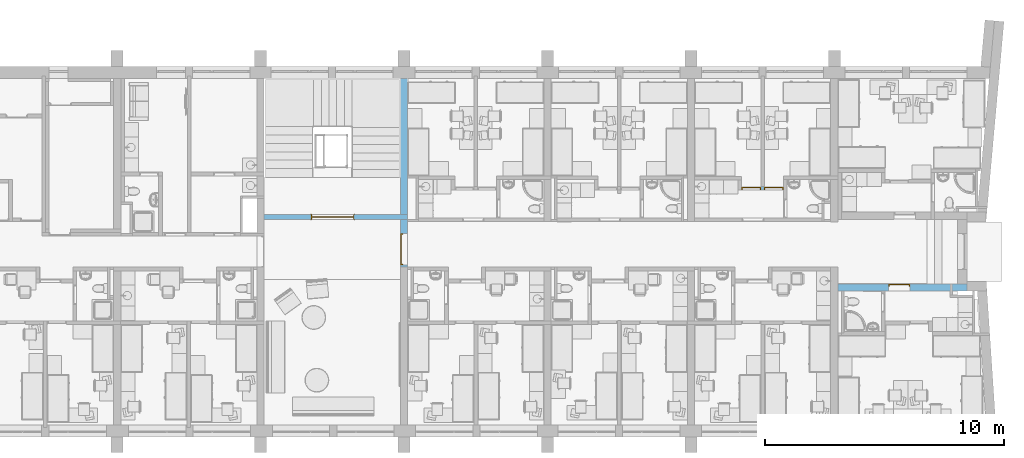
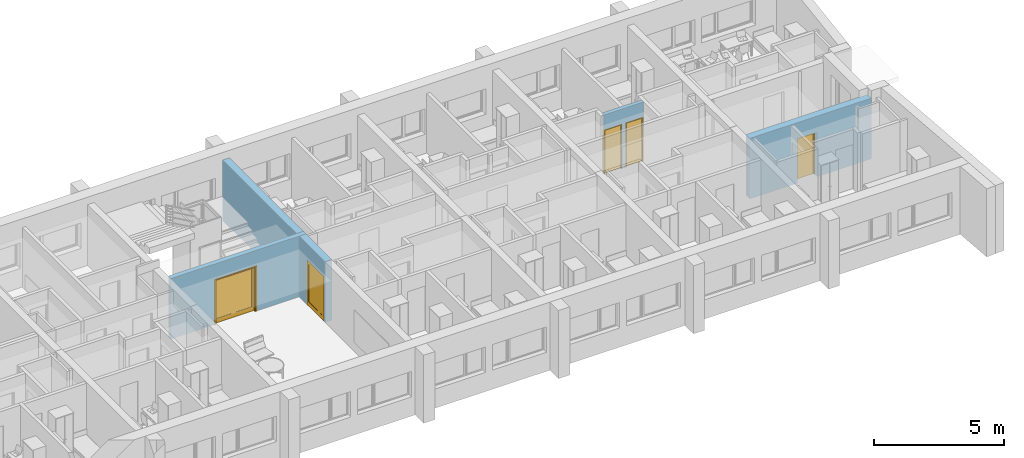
# One storey, part 24 of 165: 5 doors, 5 openings, plus 4 elements that do not belong to this part.
"""IFC2X3 building model written with IfcOpenShell, lengths in millimetres."""

from ifc_helpers import new_model, entity, si_unit, converted_unit, money_unit, direction, frame, origin_with_axes, place, context, subcontext, project, spatial, polyline, outline, extrude, open_shell, faceted_brep, surface_model, material, material_list, layer, layer_set, layer_usage, type_object, element, fill, save


model = new_model("IFC2X3")

# Units and contexts
model_context = context("Model", 3, precision=1e-05, world=origin_with_axes(), true_north=direction((0.0, 1.0)))
body_context = subcontext(model_context, "Body", "Model", "MODEL_VIEW")
ifc_project = project(units=[si_unit("LENGTHUNIT", "METRE", prefix="MILLI"), si_unit("AREAUNIT", "SQUARE_METRE"), si_unit("VOLUMEUNIT", "CUBIC_METRE"), converted_unit("PLANEANGLEUNIT", "DEGREE", entity("IfcPlaneAngleMeasure", 0.0174532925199), si_unit("PLANEANGLEUNIT", "RADIAN"), dimensions=[0, 0, 0, 0, 0, 0, 0]), si_unit("SOLIDANGLEUNIT", "STERADIAN"), money_unit("USD"), converted_unit("TIMEUNIT", "Year", entity("IfcTimeMeasure", 31556926.0), si_unit("TIMEUNIT", "SECOND"), dimensions=[0, 0, 0, 0, 0, 0, 0]), si_unit("MASSUNIT", "GRAM"), si_unit("THERMODYNAMICTEMPERATUREUNIT", "DEGREE_CELSIUS"), si_unit("LUMINOUSINTENSITYUNIT", "LUMEN")], contexts=[model_context])

# Site, building, storey
site_placement = place(None, origin_with_axes())
site = spatial("IfcSite", under=ifc_project, at=site_placement, Name="Site", CompositionType="ELEMENT")
building_placement = place(site_placement, origin_with_axes())
building = spatial("IfcBuilding", under=site, at=building_placement, Name="Building", CompositionType="ELEMENT")
storey_placement = place(building_placement, frame((0.0, 0.0, 6300.0), z_axis=(0.0, 0.0, 1.0), x_axis=(1.0, 0.0, 0.0)))
storey = spatial("IfcBuildingStorey", under=building, at=storey_placement, Name="4KORRUS", CompositionType="ELEMENT", Elevation=6300.0)

# Wall, openings, doors
ifc_material_1 = material(Name="UmbKipsplaat")
ifc_layer_1 = layer(ifc_material_1, 13.0, ventilated="UNKNOWN")
ifc_layer_2 = layer(ifc_material_1, 13.0, ventilated="UNKNOWN")
ifc_material_2 = material(Name="SOOJUSTUS MINERAALVILL")
ifc_layer_3 = layer(ifc_material_2, 98.0, ventilated="UNKNOWN")
ifc_layer_4 = layer(ifc_material_1, 13.0, ventilated="UNKNOWN")
ifc_layer_5 = layer(ifc_material_1, 13.0, ventilated="UNKNOWN")
ifc_layer_set_1 = layer_set([ifc_layer_1, ifc_layer_2, ifc_layer_3, ifc_layer_4, ifc_layer_5], Name="kipssein150")
ifc_layer_usage_1 = layer_usage(ifc_layer_set_1, "AXIS2", "POSITIVE", 0.0)
wall_type_1 = type_object("IfcWallType", Name="kipssein150 150", PredefinedType="NOTDEFINED")
wall_1_placement = place(storey_placement, frame((7984.2564771, -9805.89413859, 0.0), z_axis=(0.0, 0.0, 1.0), x_axis=(1.0, 0.0, 0.0)))
wall_1 = element("IfcWallStandardCase", 1, at=wall_1_placement, inside=storey, type_object=wall_type_1, material=ifc_layer_usage_1, Name="SS1", ObjectType="SS1", context=body_context, shape_type="SweptSolid", body=[
    extrude(outline(polyline([(0.0, 0.0), (1750.44681959, 0.0), (1750.44681959, 150.0), (0.0, 150.0), (0.0, 0.0)])), origin_with_axes(), (0.0, 0.0, 1.0), 2800.0),
])
opening_1_placement = place(wall_1_placement, frame((1341.45577623, 0.0, 0.0), z_axis=(0.0, 0.0, 1.0), x_axis=(1.0, 0.0, 0.0)))
opening_1 = element("IfcOpeningElement", 2, at=opening_1_placement, cuts=wall_1, Name="SU3-5", context=body_context, shape_type="SweptSolid", body=[
    extrude(outline(polyline([(-400.0, 0.0), (400.0, 0.0), (400.0, 2100.0), (-400.0, 2100.0), (-400.0, 0.0)])), frame((0.0, 150.0, 0.0), z_axis=(0.0, 1.0, 0.0), x_axis=(-1.0, 0.0, 0.0)), (0.0, 0.0, -1.0), 450.0),
])
opening_2_placement = place(wall_1_placement, frame((400.0, 0.0, 0.0), z_axis=(0.0, 0.0, 1.0), x_axis=(1.0, 0.0, 0.0)))
opening_2 = element("IfcOpeningElement", 3, at=opening_2_placement, cuts=wall_1, Name="SU3-4", context=body_context, shape_type="SweptSolid", body=[
    extrude(outline(polyline([(-400.0, 0.0), (400.0, 0.0), (400.0, 2100.0), (-400.0, 2100.0), (-400.0, 0.0)])), frame((0.0, 150.0, 0.0), z_axis=(0.0, -1.0, 0.0), x_axis=(1.0, 0.0, 0.0)), (0.0, 0.0, 1.0), 450.0),
])
ifc_material_3 = material(Name="Background")
ifc_material_list = material_list([ifc_material_3])
door_style_1 = type_object("IfcDoorStyle", Name="Door 19", ConstructionType="NOTDEFINED", OperationType="SINGLE_SWING_LEFT", ParameterTakesPrecedence=False, Sizeable=False)
door_1_placement = place(opening_1_placement, frame((-400.0, 0.0, 0.0), z_axis=(0.0, 0.0, 1.0), x_axis=(1.0, 0.0, 0.0)))
door_1 = element("IfcDoor", 4, at=door_1_placement, inside=storey, type_object=door_style_1, material=ifc_material_list, Name="SU3-5", ObjectType="Toa uks", OverallHeight=2100.0, OverallWidth=800.0, context=body_context, shape_type="Brep", body=[
    faceted_brep([(760.0, 75.0, 0.0), (760.0, 0.0, 0.0), (760.0, 0.0, 2060.0), (760.0, 75.0, 2060.0), (772.0, 75.0, 0.0), (772.0, 115.0, 0.0), (800.0, 115.0, 0.0), (800.0, 0.0, 0.0), (800.0, 0.0, 2060.0), (772.0, 75.0, 2060.0), (800.0, 115.0, 2060.0), (772.0, 115.0, 2060.0)], [[[0, 1, 2, 3]], [[4, 5, 6, 7, 1, 0]], [[2, 1, 7, 8]], [[9, 3, 2, 8, 10, 11]], [[9, 4, 0, 3]], [[11, 5, 4, 9]], [[11, 10, 6, 5]], [[7, 6, 10, 8]]]),
    faceted_brep([(28.0, 75.0, 2060.0), (28.0, 115.0, 2060.0), (0.0, 115.0, 2060.0), (0.0, 0.0, 2060.0), (40.0, 0.0, 2060.0), (40.0, 75.0, 2060.0), (28.0, 75.0, 0.0), (28.0, 115.0, 0.0), (0.0, 115.0, 0.0), (0.0, 0.0, 0.0), (40.0, 0.0, 0.0), (40.0, 75.0, 0.0)], [[[0, 1, 2, 3, 4, 5]], [[0, 6, 7, 1]], [[7, 8, 2, 1]], [[3, 2, 8, 9]], [[4, 3, 9, 10]], [[5, 4, 10, 11]], [[5, 11, 6, 0]], [[6, 11, 10, 9, 8, 7]]]),
    faceted_brep([(772.0, 115.0, 2072.0), (28.0, 115.0, 2072.0), (28.0, 115.0, 2060.0), (0.0, 115.0, 2060.0), (0.0, 115.0, 2100.0), (800.0, 115.0, 2100.0), (800.0, 115.0, 2060.0), (772.0, 115.0, 2060.0), (772.0, 75.0, 2072.0), (28.0, 75.0, 2072.0), (28.0, 75.0, 2060.0), (40.0, 75.0, 2060.0), (40.0, 0.0, 2060.0), (0.0, 0.0, 2060.0), (0.0, 0.0, 2100.0), (800.0, 0.0, 2100.0), (800.0, 0.0, 2060.0), (772.0, 75.0, 2060.0), (760.0, 0.0, 2060.0), (760.0, 75.0, 2060.0)], [[[0, 1, 2, 3, 4, 5, 6, 7]], [[0, 8, 9, 1]], [[1, 9, 10, 2]], [[10, 11, 12, 13, 3, 2]], [[14, 4, 3, 13]], [[15, 5, 4, 14]], [[16, 6, 5, 15]], [[17, 7, 6, 16, 18, 19]], [[7, 17, 8, 0]], [[10, 9, 8, 17, 19, 11]], [[19, 18, 12, 11]], [[13, 12, 18, 16, 15, 14]]]),
    faceted_brep([(28.0, 115.0, 0.0), (772.0, 115.0, 0.0), (772.0, 75.0, 0.0), (28.0, 75.0, 0.0), (28.0, 115.0, 2072.0), (772.0, 115.0, 2072.0), (772.0, 75.0, 2072.0), (28.0, 75.0, 2072.0)], [[[0, 1, 2, 3]], [[0, 4, 5, 1]], [[1, 5, 6, 2]], [[3, 2, 6, 7]], [[4, 0, 3, 7]], [[5, 4, 7, 6]]]),
])
fill(opening_1, door_1)
door_style_2 = type_object("IfcDoorStyle", Name="Door 19", ConstructionType="NOTDEFINED", OperationType="SINGLE_SWING_RIGHT", ParameterTakesPrecedence=False, Sizeable=False)
door_2_placement = place(opening_2_placement, frame((-400.0, 0.0, 0.0), z_axis=(0.0, 0.0, 1.0), x_axis=(1.0, 0.0, 0.0)))
door_2 = element("IfcDoor", 5, at=door_2_placement, inside=storey, type_object=door_style_2, material=ifc_material_list, Name="SU3-4", ObjectType="Toa uks", OverallHeight=2100.0, OverallWidth=800.0, context=body_context, shape_type="Brep", body=[
    faceted_brep([(40.0, 75.0, 0.0), (40.0, 75.0, 2060.0), (40.0, 0.0, 2060.0), (40.0, 0.0, 0.0), (28.0, 75.0, 2060.0), (28.0, 75.0, 0.0), (28.0, 115.0, 2060.0), (0.0, 115.0, 2060.0), (0.0, 0.0, 2060.0), (0.0, 0.0, 0.0), (0.0, 115.0, 0.0), (28.0, 115.0, 0.0)], [[[0, 1, 2, 3]], [[4, 1, 0, 5]], [[4, 6, 7, 8, 2, 1]], [[2, 8, 9, 3]], [[5, 0, 3, 9, 10, 11]], [[6, 4, 5, 11]], [[6, 11, 10, 7]], [[9, 8, 7, 10]]]),
    faceted_brep([(772.0, 75.0, 2060.0), (760.0, 75.0, 2060.0), (760.0, 0.0, 2060.0), (800.0, 0.0, 2060.0), (800.0, 115.0, 2060.0), (772.0, 115.0, 2060.0), (772.0, 75.0, 0.0), (760.0, 75.0, 0.0), (760.0, 0.0, 0.0), (800.0, 0.0, 0.0), (800.0, 115.0, 0.0), (772.0, 115.0, 0.0)], [[[0, 1, 2, 3, 4, 5]], [[1, 0, 6, 7]], [[1, 7, 8, 2]], [[2, 8, 9, 3]], [[3, 9, 10, 4]], [[11, 5, 4, 10]], [[0, 5, 11, 6]], [[6, 11, 10, 9, 8, 7]]]),
    faceted_brep([(28.0, 115.0, 2072.0), (28.0, 115.0, 2060.0), (0.0, 115.0, 2060.0), (0.0, 115.0, 2100.0), (800.0, 115.0, 2100.0), (800.0, 115.0, 2060.0), (772.0, 115.0, 2060.0), (772.0, 115.0, 2072.0), (28.0, 75.0, 2072.0), (28.0, 75.0, 2060.0), (40.0, 75.0, 2060.0), (40.0, 0.0, 2060.0), (0.0, 0.0, 2060.0), (0.0, 0.0, 2100.0), (800.0, 0.0, 2100.0), (800.0, 0.0, 2060.0), (772.0, 75.0, 2060.0), (760.0, 0.0, 2060.0), (760.0, 75.0, 2060.0), (772.0, 75.0, 2072.0)], [[[0, 1, 2, 3, 4, 5, 6, 7]], [[1, 0, 8, 9]], [[9, 10, 11, 12, 2, 1]], [[12, 13, 3, 2]], [[13, 14, 4, 3]], [[14, 15, 5, 4]], [[16, 6, 5, 15, 17, 18]], [[7, 6, 16, 19]], [[0, 7, 19, 8]], [[16, 18, 10, 9, 8, 19]], [[10, 18, 17, 11]], [[15, 14, 13, 12, 11, 17]]]),
    faceted_brep([(772.0, 115.0, 0.0), (772.0, 75.0, 0.0), (28.0, 75.0, 0.0), (28.0, 115.0, 0.0), (772.0, 115.0, 2072.0), (772.0, 75.0, 2072.0), (28.0, 75.0, 2072.0), (28.0, 115.0, 2072.0)], [[[0, 1, 2, 3]], [[4, 5, 1, 0]], [[1, 5, 6, 2]], [[3, 2, 6, 7]], [[0, 3, 7, 4]], [[7, 6, 5, 4]]]),
])
fill(opening_2, door_2)

# Wall, opening, door
ifc_material_4 = material(Name="Olemasolevad seinad tellis, uus viimistlus")
ifc_layer_6 = layer(ifc_material_4, 300.0, ventilated="UNKNOWN")
ifc_layer_set_2 = layer_set([ifc_layer_6], Name="Olemasolevad seinad tellis, uus viimistlus  300")
ifc_layer_usage_2 = layer_usage(ifc_layer_set_2, "AXIS2", "POSITIVE", 0.0)
wall_type_2 = type_object("IfcWallType", Name="Olemasolevad seinad tellis, uus viimistlus  300", PredefinedType="NOTDEFINED")
wall_2_placement = place(storey_placement, frame((-5990.29670331, -13036.3705726, 0.0), z_axis=(0.0, 0.0, 1.0), x_axis=(0.0, 1.0, 0.0)))
wall_2 = element("IfcWallStandardCase", 6, at=wall_2_placement, inside=storey, type_object=wall_type_2, material=ifc_layer_usage_2, Name="KS1", ObjectType="KS1", context=body_context, shape_type="SweptSolid", body=[
    extrude(outline(polyline([(0.0, 0.0), (7896.7664638, 0.0), (7896.7664638, 300.0), (0.0, 300.0), (0.0, 0.0)])), origin_with_axes(), (0.0, 0.0, 1.0), 2850.0),
])
opening_3_placement = place(wall_2_placement, frame((747.130673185, 0.0, 0.0), z_axis=(0.0, 0.0, 1.0), x_axis=(1.0, 0.0, 0.0)))
opening_3 = element("IfcOpeningElement", 7, at=opening_3_placement, cuts=wall_2, Name="SU4-22", context=body_context, shape_type="SweptSolid", body=[
    extrude(outline(polyline([(-650.0, -2100.0), (650.0, -2100.0), (650.0, 0.0), (-650.0, 0.0), (-650.0, -2100.0)])), frame((0.0, -300.0, 0.0), z_axis=(0.0, 1.0, 0.0), x_axis=(1.0, 0.0, 0.0)), (0.0, 0.0, 1.0), 900.0),
])
door_style_3 = type_object("IfcDoorStyle", Name="Double Door Asymmetric 19", ConstructionType="NOTDEFINED", OperationType="DOUBLE_DOOR_SINGLE_SWING", ParameterTakesPrecedence=False, Sizeable=False)
door_3_placement = place(opening_3_placement, frame((-650.0, 0.0, 0.0), z_axis=(0.0, 0.0, 1.0), x_axis=(1.0, 0.0, 0.0)))
door_3 = element("IfcDoor", 8, at=door_3_placement, inside=storey, type_object=door_style_3, material=ifc_material_list, Name="SU4-22", ObjectType="Trepkoja uks", OverallHeight=2100.0, OverallWidth=1300.0, context=body_context, shape_type="SurfaceModel", body=[
    faceted_brep([(40.0, 260.0, 0.0), (40.0, 260.0, 2060.0), (40.0, 185.0, 2060.0), (40.0, 185.0, 0.0), (28.0, 260.0, 2060.0), (28.0, 260.0, 0.0), (28.0, 300.0, 2060.0), (0.0, 300.0, 2060.0), (0.0, 185.0, 2060.0), (0.0, 185.0, 0.0), (0.0, 300.0, 0.0), (28.0, 300.0, 0.0)], [[[0, 1, 2, 3]], [[4, 1, 0, 5]], [[4, 6, 7, 8, 2, 1]], [[2, 8, 9, 3]], [[5, 0, 3, 9, 10, 11]], [[6, 4, 5, 11]], [[6, 11, 10, 7]], [[9, 8, 7, 10]]]),
    faceted_brep([(1272.0, 260.0, 2060.0), (1260.0, 260.0, 2060.0), (1260.0, 185.0, 2060.0), (1300.0, 185.0, 2060.0), (1300.0, 300.0, 2060.0), (1272.0, 300.0, 2060.0), (1272.0, 260.0, 0.0), (1260.0, 260.0, 0.0), (1260.0, 185.0, 0.0), (1300.0, 185.0, 0.0), (1300.0, 300.0, 0.0), (1272.0, 300.0, 0.0)], [[[0, 1, 2, 3, 4, 5]], [[1, 0, 6, 7]], [[1, 7, 8, 2]], [[2, 8, 9, 3]], [[3, 9, 10, 4]], [[11, 5, 4, 10]], [[0, 5, 11, 6]], [[6, 11, 10, 9, 8, 7]]]),
    faceted_brep([(28.0, 300.0, 2072.0), (28.0, 300.0, 2060.0), (0.0, 300.0, 2060.0), (0.0, 300.0, 2100.0), (1300.0, 300.0, 2100.0), (1300.0, 300.0, 2060.0), (1272.0, 300.0, 2060.0), (1272.0, 300.0, 2072.0), (28.0, 260.0, 2072.0), (28.0, 260.0, 2060.0), (40.0, 260.0, 2060.0), (40.0, 185.0, 2060.0), (0.0, 185.0, 2060.0), (0.0, 185.0, 2100.0), (1300.0, 185.0, 2100.0), (1300.0, 185.0, 2060.0), (1272.0, 260.0, 2060.0), (1260.0, 185.0, 2060.0), (1260.0, 260.0, 2060.0), (1272.0, 260.0, 2072.0)], [[[0, 1, 2, 3, 4, 5, 6, 7]], [[1, 0, 8, 9]], [[9, 10, 11, 12, 2, 1]], [[12, 13, 3, 2]], [[13, 14, 4, 3]], [[14, 15, 5, 4]], [[16, 6, 5, 15, 17, 18]], [[7, 6, 16, 19]], [[0, 7, 19, 8]], [[16, 18, 10, 9, 8, 19]], [[10, 18, 17, 11]], [[15, 14, 13, 12, 11, 17]]]),
    faceted_brep([(1272.0, 300.0, 200.0), (1272.0, 260.0, 200.0), (1172.0, 260.0, 200.0), (1172.0, 300.0, 200.0), (1272.0, 300.0, 1972.0), (1272.0, 260.0, 1972.0), (1172.0, 260.0, 1972.0), (1172.0, 300.0, 1972.0)], [[[0, 1, 2, 3]], [[4, 5, 1, 0]], [[1, 5, 6, 2]], [[3, 2, 6, 7]], [[0, 3, 7, 4]], [[7, 6, 5, 4]]]),
    faceted_brep([(372.0, 300.0, 200.0), (372.0, 260.0, 200.0), (372.0, 260.0, 1972.0), (372.0, 300.0, 1972.0), (472.0, 300.0, 200.0), (472.0, 260.0, 200.0), (472.0, 260.0, 1972.0), (472.0, 300.0, 1972.0)], [[[0, 1, 2, 3]], [[4, 5, 1, 0]], [[1, 5, 6, 2]], [[3, 2, 6, 7]], [[0, 3, 7, 4]], [[7, 6, 5, 4]]]),
    faceted_brep([(1272.0, 300.0, 0.0), (1272.0, 260.0, 0.0), (372.0, 260.0, 0.0), (372.0, 300.0, 0.0), (1272.0, 300.0, 200.0), (1272.0, 260.0, 200.0), (1172.0, 260.0, 200.0), (472.0, 260.0, 200.0), (372.0, 260.0, 200.0), (372.0, 300.0, 200.0), (472.0, 300.0, 200.0), (1172.0, 300.0, 200.0)], [[[0, 1, 2, 3]], [[4, 5, 1, 0]], [[1, 5, 6, 7, 8, 2]], [[3, 2, 8, 9]], [[0, 3, 9, 10, 11, 4]], [[11, 6, 5, 4]], [[10, 7, 6, 11]], [[9, 8, 7, 10]]]),
    faceted_brep([(1272.0, 300.0, 2072.0), (1272.0, 260.0, 2072.0), (1272.0, 260.0, 1972.0), (1272.0, 300.0, 1972.0), (372.0, 300.0, 2072.0), (372.0, 260.0, 2072.0), (372.0, 260.0, 1972.0), (472.0, 260.0, 1972.0), (1172.0, 260.0, 1972.0), (1172.0, 300.0, 1972.0), (472.0, 300.0, 1972.0), (372.0, 300.0, 1972.0)], [[[0, 1, 2, 3]], [[4, 5, 1, 0]], [[1, 5, 6, 7, 8, 2]], [[3, 2, 8, 9]], [[0, 3, 9, 10, 11, 4]], [[11, 6, 5, 4]], [[10, 7, 6, 11]], [[9, 8, 7, 10]]]),
    surface_model("IfcShellBasedSurfaceModel", [(1172.0, 286.0, 200.0), (472.0, 286.0, 200.0), (472.0, 286.0, 1972.0), (1172.0, 286.0, 1972.0)], [open_shell([[[0, 1, 2, 3]]])]),
    surface_model("IfcShellBasedSurfaceModel", [(1172.0, 274.0, 200.0), (1172.0, 274.0, 1972.0), (472.0, 274.0, 1972.0), (472.0, 274.0, 200.0)], [open_shell([[[0, 1, 2, 3]]])]),
    faceted_brep([(28.0, 300.0, 200.0), (128.0, 300.0, 200.0), (128.0, 260.0, 200.0), (28.0, 260.0, 200.0), (28.0, 300.0, 1972.0), (128.0, 300.0, 1972.0), (128.0, 260.0, 1972.0), (28.0, 260.0, 1972.0)], [[[0, 1, 2, 3]], [[0, 4, 5, 1]], [[1, 5, 6, 2]], [[3, 2, 6, 7]], [[4, 0, 3, 7]], [[5, 4, 7, 6]]]),
    faceted_brep([(372.0, 300.0, 200.0), (372.0, 300.0, 1972.0), (372.0, 260.0, 1972.0), (372.0, 260.0, 200.0), (272.0, 300.0, 200.0), (272.0, 300.0, 1972.0), (272.0, 260.0, 1972.0), (272.0, 260.0, 200.0)], [[[0, 1, 2, 3]], [[0, 4, 5, 1]], [[1, 5, 6, 2]], [[3, 2, 6, 7]], [[4, 0, 3, 7]], [[5, 4, 7, 6]]]),
    faceted_brep([(28.0, 300.0, 0.0), (372.0, 300.0, 0.0), (372.0, 260.0, 0.0), (28.0, 260.0, 0.0), (28.0, 300.0, 200.0), (128.0, 300.0, 200.0), (272.0, 300.0, 200.0), (372.0, 300.0, 200.0), (372.0, 260.0, 200.0), (272.0, 260.0, 200.0), (128.0, 260.0, 200.0), (28.0, 260.0, 200.0)], [[[0, 1, 2, 3]], [[0, 4, 5, 6, 7, 1]], [[1, 7, 8, 2]], [[3, 2, 8, 9, 10, 11]], [[4, 0, 3, 11]], [[5, 4, 11, 10]], [[6, 5, 10, 9]], [[7, 6, 9, 8]]]),
    faceted_brep([(28.0, 300.0, 2072.0), (28.0, 300.0, 1972.0), (28.0, 260.0, 1972.0), (28.0, 260.0, 2072.0), (372.0, 300.0, 2072.0), (372.0, 300.0, 1972.0), (272.0, 300.0, 1972.0), (128.0, 300.0, 1972.0), (128.0, 260.0, 1972.0), (272.0, 260.0, 1972.0), (372.0, 260.0, 1972.0), (372.0, 260.0, 2072.0)], [[[0, 1, 2, 3]], [[0, 4, 5, 6, 7, 1]], [[1, 7, 8, 2]], [[3, 2, 8, 9, 10, 11]], [[4, 0, 3, 11]], [[5, 4, 11, 10]], [[6, 5, 10, 9]], [[7, 6, 9, 8]]]),
    surface_model("IfcShellBasedSurfaceModel", [(128.0, 286.0, 200.0), (128.0, 286.0, 1972.0), (272.0, 286.0, 1972.0), (272.0, 286.0, 200.0)], [open_shell([[[0, 1, 2, 3]]])]),
    surface_model("IfcShellBasedSurfaceModel", [(128.0, 274.0, 200.0), (272.0, 274.0, 200.0), (272.0, 274.0, 1972.0), (128.0, 274.0, 1972.0)], [open_shell([[[0, 1, 2, 3]]])]),
])
fill(opening_3, door_3)

ifc_layer_usage_3 = layer_usage(ifc_layer_set_2, "AXIS2", "POSITIVE", 0.0)
wall_3_placement = place(storey_placement, frame((17415.1799697, -13739.2398994, 0.0), z_axis=(0.0, 0.0, 1.0), x_axis=(-1.0, 0.0, 0.0)))
wall_3 = element("IfcWallStandardCase", 9, at=wall_3_placement, inside=storey, type_object=wall_type_2, material=ifc_layer_usage_3, Name="KS1", ObjectType="KS1", context=body_context, shape_type="SweptSolid", body=[
    extrude(outline(polyline([(0.0, 0.0), (5405.47667304, 0.0), (5405.47667304, 300.0), (0.0, 300.0), (0.0, 0.0)])), origin_with_axes(), (0.0, 0.0, 1.0), 2850.0),
])
opening_4_placement = place(wall_3_placement, frame((2839.68172869, 0.0, 0.0), z_axis=(0.0, 0.0, 1.0), x_axis=(1.0, 0.0, 0.0)))
opening_4 = element("IfcOpeningElement", 10, at=opening_4_placement, cuts=wall_3, Name="SU2-5", context=body_context, shape_type="SweptSolid", body=[
    extrude(outline(polyline([(-450.0, -2100.0), (450.0, -2100.0), (450.0, 0.0), (-450.0, 0.0), (-450.0, -2100.0)])), frame((0.0, 300.0, 0.0), z_axis=(0.0, -1.0, 0.0), x_axis=(-1.0, 0.0, 0.0)), (0.0, 0.0, 1.0), 900.0),
])
door_style_4 = type_object("IfcDoorStyle", Name="Door 19", ConstructionType="NOTDEFINED", OperationType="SINGLE_SWING_RIGHT", ParameterTakesPrecedence=False, Sizeable=False)
door_4_placement = place(opening_4_placement, frame((450.0, 0.0, 0.0), z_axis=(0.0, 0.0, 1.0), x_axis=(-1.0, 0.0, 0.0)))
door_4 = element("IfcDoor", 11, at=door_4_placement, inside=storey, type_object=door_style_4, material=ifc_material_list, Name="SU2-5", ObjectType="Korteri välisuks", OverallHeight=2100.0, OverallWidth=900.0, context=body_context, shape_type="Brep", body=[
    faceted_brep([(40.0, -40.0, 0.0), (40.0, -40.0, 2060.0), (40.0, -115.0, 2060.0), (40.0, -115.0, 0.0), (28.0, -40.0, 2060.0), (28.0, -40.0, 0.0), (28.0, 0.0, 2060.0), (0.0, 0.0, 2060.0), (0.0, -115.0, 2060.0), (0.0, -115.0, 0.0), (0.0, 0.0, 0.0), (28.0, 0.0, 0.0)], [[[0, 1, 2, 3]], [[4, 1, 0, 5]], [[4, 6, 7, 8, 2, 1]], [[2, 8, 9, 3]], [[5, 0, 3, 9, 10, 11]], [[6, 4, 5, 11]], [[6, 11, 10, 7]], [[9, 8, 7, 10]]]),
    faceted_brep([(872.0, -40.0, 2060.0), (860.0, -40.0, 2060.0), (860.0, -115.0, 2060.0), (900.0, -115.0, 2060.0), (900.0, 0.0, 2060.0), (872.0, 0.0, 2060.0), (872.0, -40.0, 0.0), (860.0, -40.0, 0.0), (860.0, -115.0, 0.0), (900.0, -115.0, 0.0), (900.0, 0.0, 0.0), (872.0, 0.0, 0.0)], [[[0, 1, 2, 3, 4, 5]], [[1, 0, 6, 7]], [[1, 7, 8, 2]], [[2, 8, 9, 3]], [[3, 9, 10, 4]], [[11, 5, 4, 10]], [[0, 5, 11, 6]], [[6, 11, 10, 9, 8, 7]]]),
    faceted_brep([(28.0, 0.0, 2072.0), (28.0, 0.0, 2060.0), (0.0, 0.0, 2060.0), (0.0, 0.0, 2100.0), (900.0, 0.0, 2100.0), (900.0, 0.0, 2060.0), (872.0, 0.0, 2060.0), (872.0, 0.0, 2072.0), (28.0, -40.0, 2072.0), (28.0, -40.0, 2060.0), (40.0, -40.0, 2060.0), (40.0, -115.0, 2060.0), (0.0, -115.0, 2060.0), (0.0, -115.0, 2100.0), (900.0, -115.0, 2100.0), (900.0, -115.0, 2060.0), (872.0, -40.0, 2060.0), (860.0, -115.0, 2060.0), (860.0, -40.0, 2060.0), (872.0, -40.0, 2072.0)], [[[0, 1, 2, 3, 4, 5, 6, 7]], [[1, 0, 8, 9]], [[9, 10, 11, 12, 2, 1]], [[12, 13, 3, 2]], [[13, 14, 4, 3]], [[14, 15, 5, 4]], [[16, 6, 5, 15, 17, 18]], [[7, 6, 16, 19]], [[0, 7, 19, 8]], [[16, 18, 10, 9, 8, 19]], [[10, 18, 17, 11]], [[15, 14, 13, 12, 11, 17]]]),
    faceted_brep([(872.0, 0.0, 0.0), (872.0, -40.0, 0.0), (28.0, -40.0, 0.0), (28.0, 0.0, 0.0), (872.0, 0.0, 2072.0), (872.0, -40.0, 2072.0), (28.0, -40.0, 2072.0), (28.0, 0.0, 2072.0)], [[[0, 1, 2, 3]], [[4, 5, 1, 0]], [[1, 5, 6, 2]], [[3, 2, 6, 7]], [[0, 3, 7, 4]], [[7, 6, 5, 4]]]),
])
fill(opening_4, door_4)

ifc_layer_7 = layer(ifc_material_4, 200.0, ventilated="UNKNOWN")
ifc_layer_set_3 = layer_set([ifc_layer_7], Name="Olemasolevad seinad tellis, uus viimistlus  200")
ifc_layer_usage_4 = layer_usage(ifc_layer_set_3, "AXIS2", "POSITIVE", -200.0)
wall_type_3 = type_object("IfcWallType", Name="Olemasolevad seinad tellis, uus viimistlus  200", PredefinedType="NOTDEFINED")
wall_4_placement = place(storey_placement, frame((-5990.29670331, -11039.6041088, 0.0), z_axis=(0.0, 0.0, 1.0), x_axis=(-1.0, 0.0, 0.0)))
wall_4 = element("IfcWallStandardCase", 12, at=wall_4_placement, inside=storey, type_object=wall_type_3, material=ifc_layer_usage_4, Name="KS1", ObjectType="KS1", context=body_context, shape_type="SweptSolid", body=[
    extrude(outline(polyline([(0.0, -200.0), (6000.0, -200.0), (6000.0, 0.0), (0.0, 0.0), (0.0, -200.0)])), origin_with_axes(), (0.0, 0.0, 1.0), 2850.0),
])
opening_5_placement = place(wall_4_placement, frame((3133.31707985, 0.0, 0.0), z_axis=(0.0, 0.0, 1.0), x_axis=(1.0, 0.0, 0.0)))
opening_5 = element("IfcOpeningElement", 13, at=opening_5_placement, cuts=wall_4, Name="SU5", context=body_context, shape_type="SweptSolid", body=[
    extrude(outline(polyline([(-900.0, 0.0), (900.0, 0.0), (900.0, 2100.0), (-900.0, 2100.0), (-900.0, 0.0)])), frame((0.0, -200.0, 0.0), z_axis=(0.0, 1.0, 0.0), x_axis=(-1.0, 0.0, 0.0)), (0.0, 0.0, 1.0), 600.0),
    extrude(outline(polyline([(-937.0, 0.0), (-937.0, -2137.0), (937.0, -2137.0), (937.0, 0.0), (-937.0, 0.0)])), frame((0.0, -200.0, 0.0), z_axis=(0.0, -1.0, 0.0), x_axis=(-1.0, 0.0, 0.0)), (0.0, 0.0, 1.0), 200.0),
    extrude(outline(polyline([(-937.0, 2137.0), (-937.0, 0.0), (937.0, 0.0), (937.0, 2137.0), (-937.0, 2137.0)])), frame((0.0, 0.0, 0.0), z_axis=(0.0, 1.0, 0.0), x_axis=(-1.0, 0.0, 0.0)), (0.0, 0.0, 1.0), 200.0),
])
door_style_5 = type_object("IfcDoorStyle", Name="Double Door 19", ConstructionType="NOTDEFINED", OperationType="DOUBLE_DOOR_SINGLE_SWING", ParameterTakesPrecedence=False, Sizeable=False)
door_5_placement = place(opening_5_placement, frame((900.0, 0.0, 0.0), z_axis=(0.0, 0.0, 1.0), x_axis=(-1.0, 0.0, 0.0)))
door_5 = element("IfcDoor", 14, at=door_5_placement, inside=storey, type_object=door_style_5, material=ifc_material_list, Name="SU5", ObjectType="Trepkoja uks", OverallHeight=2100.0, OverallWidth=1800.0, context=body_context, shape_type="SurfaceModel", body=[
    faceted_brep([(0.0, 115.0, 0.0), (0.0, 200.0, 0.0), (25.0, 200.0, 0.0), (25.0, 115.0, 0.0), (0.0, 115.0, 2100.0), (0.0, 200.0, 2100.0), (25.0, 200.0, 2075.0), (25.0, 115.0, 2075.0)], [[[0, 1, 2, 3]], [[4, 5, 1, 0]], [[1, 5, 6, 2]], [[3, 2, 6, 7]], [[0, 3, 7, 4]], [[7, 6, 5, 4]]]),
    faceted_brep([(1800.0, 115.0, 2100.0), (1800.0, 200.0, 2100.0), (1775.0, 200.0, 2075.0), (1775.0, 115.0, 2075.0), (1800.0, 115.0, 0.0), (1800.0, 200.0, 0.0), (1775.0, 200.0, 0.0), (1775.0, 115.0, 0.0)], [[[0, 1, 2, 3]], [[4, 5, 1, 0]], [[1, 5, 6, 2]], [[3, 2, 6, 7]], [[0, 3, 7, 4]], [[7, 6, 5, 4]]]),
    faceted_brep([(25.0, 115.0, 2075.0), (25.0, 200.0, 2075.0), (1775.0, 200.0, 2075.0), (1775.0, 115.0, 2075.0), (0.0, 115.0, 2100.0), (0.0, 200.0, 2100.0), (1800.0, 200.0, 2100.0), (1800.0, 115.0, 2100.0)], [[[0, 1, 2, 3]], [[4, 5, 1, 0]], [[1, 5, 6, 2]], [[3, 2, 6, 7]], [[0, 3, 7, 4]], [[7, 6, 5, 4]]]),
    faceted_brep([(-37.0, 219.0, 0.0), (13.0, 219.0, 0.0), (13.0, 200.0, 0.0), (-37.0, 200.0, 0.0), (-37.0, 219.0, 2137.0), (13.0, 219.0, 2087.0), (13.0, 200.0, 2087.0), (-37.0, 200.0, 2137.0)], [[[0, 1, 2, 3]], [[0, 4, 5, 1]], [[1, 5, 6, 2]], [[3, 2, 6, 7]], [[4, 0, 3, 7]], [[5, 4, 7, 6]]]),
    faceted_brep([(1837.0, 219.0, 2137.0), (1787.0, 219.0, 2087.0), (1787.0, 200.0, 2087.0), (1837.0, 200.0, 2137.0), (1837.0, 219.0, 0.0), (1787.0, 219.0, 0.0), (1787.0, 200.0, 0.0), (1837.0, 200.0, 0.0)], [[[0, 1, 2, 3]], [[0, 4, 5, 1]], [[1, 5, 6, 2]], [[3, 2, 6, 7]], [[4, 0, 3, 7]], [[5, 4, 7, 6]]]),
    faceted_brep([(-37.0, 219.0, 2137.0), (13.0, 219.0, 2087.0), (13.0, 200.0, 2087.0), (-37.0, 200.0, 2137.0), (1837.0, 219.0, 2137.0), (1787.0, 219.0, 2087.0), (1787.0, 200.0, 2087.0), (1837.0, 200.0, 2137.0)], [[[0, 1, 2, 3]], [[0, 4, 5, 1]], [[1, 5, 6, 2]], [[3, 2, 6, 7]], [[4, 0, 3, 7]], [[5, 4, 7, 6]]]),
    faceted_brep([(-37.0, -19.0, 0.0), (-37.0, 0.0, 0.0), (13.0, 0.0, 0.0), (13.0, -19.0, 0.0), (-37.0, -19.0, 2137.0), (-37.0, 0.0, 2137.0), (13.0, 0.0, 2087.0), (13.0, -19.0, 2087.0)], [[[0, 1, 2, 3]], [[4, 5, 1, 0]], [[1, 5, 6, 2]], [[3, 2, 6, 7]], [[0, 3, 7, 4]], [[7, 6, 5, 4]]]),
    faceted_brep([(1837.0, -19.0, 2137.0), (1837.0, 0.0, 2137.0), (1787.0, 0.0, 2087.0), (1787.0, -19.0, 2087.0), (1837.0, -19.0, 0.0), (1837.0, 0.0, 0.0), (1787.0, 0.0, 0.0), (1787.0, -19.0, 0.0)], [[[0, 1, 2, 3]], [[4, 5, 1, 0]], [[1, 5, 6, 2]], [[3, 2, 6, 7]], [[0, 3, 7, 4]], [[7, 6, 5, 4]]]),
    faceted_brep([(-37.0, -19.0, 2137.0), (-37.0, 0.0, 2137.0), (13.0, 0.0, 2087.0), (13.0, -19.0, 2087.0), (1837.0, -19.0, 2137.0), (1837.0, 0.0, 2137.0), (1787.0, 0.0, 2087.0), (1787.0, -19.0, 2087.0)], [[[0, 1, 2, 3]], [[4, 5, 1, 0]], [[1, 5, 6, 2]], [[3, 2, 6, 7]], [[0, 3, 7, 4]], [[7, 6, 5, 4]]]),
    faceted_brep([(40.0, 75.0, 0.0), (40.0, 75.0, 2060.0), (40.0, 0.0, 2060.0), (40.0, 0.0, 0.0), (28.0, 75.0, 2060.0), (28.0, 75.0, 0.0), (28.0, 115.0, 2060.0), (0.0, 115.0, 2060.0), (0.0, 0.0, 2060.0), (0.0, 0.0, 0.0), (0.0, 115.0, 0.0), (28.0, 115.0, 0.0)], [[[0, 1, 2, 3]], [[4, 1, 0, 5]], [[4, 6, 7, 8, 2, 1]], [[2, 8, 9, 3]], [[5, 0, 3, 9, 10, 11]], [[6, 4, 5, 11]], [[6, 11, 10, 7]], [[9, 8, 7, 10]]]),
    faceted_brep([(1772.0, 75.0, 2060.0), (1760.0, 75.0, 2060.0), (1760.0, 0.0, 2060.0), (1800.0, 0.0, 2060.0), (1800.0, 115.0, 2060.0), (1772.0, 115.0, 2060.0), (1772.0, 75.0, 0.0), (1760.0, 75.0, 0.0), (1760.0, 0.0, 0.0), (1800.0, 0.0, 0.0), (1800.0, 115.0, 0.0), (1772.0, 115.0, 0.0)], [[[0, 1, 2, 3, 4, 5]], [[1, 0, 6, 7]], [[1, 7, 8, 2]], [[2, 8, 9, 3]], [[3, 9, 10, 4]], [[11, 5, 4, 10]], [[0, 5, 11, 6]], [[6, 11, 10, 9, 8, 7]]]),
    faceted_brep([(28.0, 115.0, 2072.0), (28.0, 115.0, 2060.0), (0.0, 115.0, 2060.0), (0.0, 115.0, 2100.0), (1800.0, 115.0, 2100.0), (1800.0, 115.0, 2060.0), (1772.0, 115.0, 2060.0), (1772.0, 115.0, 2072.0), (28.0, 75.0, 2072.0), (28.0, 75.0, 2060.0), (40.0, 75.0, 2060.0), (40.0, 0.0, 2060.0), (0.0, 0.0, 2060.0), (0.0, 0.0, 2100.0), (1800.0, 0.0, 2100.0), (1800.0, 0.0, 2060.0), (1772.0, 75.0, 2060.0), (1760.0, 0.0, 2060.0), (1760.0, 75.0, 2060.0), (1772.0, 75.0, 2072.0)], [[[0, 1, 2, 3, 4, 5, 6, 7]], [[1, 0, 8, 9]], [[9, 10, 11, 12, 2, 1]], [[12, 13, 3, 2]], [[13, 14, 4, 3]], [[14, 15, 5, 4]], [[16, 6, 5, 15, 17, 18]], [[7, 6, 16, 19]], [[0, 7, 19, 8]], [[16, 18, 10, 9, 8, 19]], [[10, 18, 17, 11]], [[15, 14, 13, 12, 11, 17]]]),
    faceted_brep([(1772.0, 115.0, 200.0), (1772.0, 75.0, 200.0), (1672.0, 75.0, 200.0), (1672.0, 115.0, 200.0), (1772.0, 115.0, 1972.0), (1772.0, 75.0, 1972.0), (1672.0, 75.0, 1972.0), (1672.0, 115.0, 1972.0)], [[[0, 1, 2, 3]], [[4, 5, 1, 0]], [[1, 5, 6, 2]], [[3, 2, 6, 7]], [[0, 3, 7, 4]], [[7, 6, 5, 4]]]),
    faceted_brep([(900.0, 115.0, 200.0), (900.0, 75.0, 200.0), (900.0, 75.0, 1972.0), (900.0, 115.0, 1972.0), (1000.0, 115.0, 200.0), (1000.0, 75.0, 200.0), (1000.0, 75.0, 1972.0), (1000.0, 115.0, 1972.0)], [[[0, 1, 2, 3]], [[4, 5, 1, 0]], [[1, 5, 6, 2]], [[3, 2, 6, 7]], [[0, 3, 7, 4]], [[7, 6, 5, 4]]]),
    faceted_brep([(1772.0, 115.0, 0.0), (1772.0, 75.0, 0.0), (900.0, 75.0, 0.0), (900.0, 115.0, 0.0), (1772.0, 115.0, 200.0), (1772.0, 75.0, 200.0), (1672.0, 75.0, 200.0), (1000.0, 75.0, 200.0), (900.0, 75.0, 200.0), (900.0, 115.0, 200.0), (1000.0, 115.0, 200.0), (1672.0, 115.0, 200.0)], [[[0, 1, 2, 3]], [[4, 5, 1, 0]], [[1, 5, 6, 7, 8, 2]], [[3, 2, 8, 9]], [[0, 3, 9, 10, 11, 4]], [[11, 6, 5, 4]], [[10, 7, 6, 11]], [[9, 8, 7, 10]]]),
    faceted_brep([(1772.0, 115.0, 2072.0), (1772.0, 75.0, 2072.0), (1772.0, 75.0, 1972.0), (1772.0, 115.0, 1972.0), (900.0, 115.0, 2072.0), (900.0, 75.0, 2072.0), (900.0, 75.0, 1972.0), (1000.0, 75.0, 1972.0), (1672.0, 75.0, 1972.0), (1672.0, 115.0, 1972.0), (1000.0, 115.0, 1972.0), (900.0, 115.0, 1972.0)], [[[0, 1, 2, 3]], [[4, 5, 1, 0]], [[1, 5, 6, 7, 8, 2]], [[3, 2, 8, 9]], [[0, 3, 9, 10, 11, 4]], [[11, 6, 5, 4]], [[10, 7, 6, 11]], [[9, 8, 7, 10]]]),
    surface_model("IfcShellBasedSurfaceModel", [(1672.0, 101.0, 200.0), (1000.0, 101.0, 200.0), (1000.0, 101.0, 1972.0), (1672.0, 101.0, 1972.0)], [open_shell([[[0, 1, 2, 3]]])]),
    surface_model("IfcShellBasedSurfaceModel", [(1672.0, 89.0, 200.0), (1672.0, 89.0, 1972.0), (1000.0, 89.0, 1972.0), (1000.0, 89.0, 200.0)], [open_shell([[[0, 1, 2, 3]]])]),
    faceted_brep([(28.0, 115.0, 200.0), (128.0, 115.0, 200.0), (128.0, 75.0, 200.0), (28.0, 75.0, 200.0), (28.0, 115.0, 1972.0), (128.0, 115.0, 1972.0), (128.0, 75.0, 1972.0), (28.0, 75.0, 1972.0)], [[[0, 1, 2, 3]], [[0, 4, 5, 1]], [[1, 5, 6, 2]], [[3, 2, 6, 7]], [[4, 0, 3, 7]], [[5, 4, 7, 6]]]),
    faceted_brep([(900.0, 115.0, 200.0), (900.0, 115.0, 1972.0), (900.0, 75.0, 1972.0), (900.0, 75.0, 200.0), (800.0, 115.0, 200.0), (800.0, 115.0, 1972.0), (800.0, 75.0, 1972.0), (800.0, 75.0, 200.0)], [[[0, 1, 2, 3]], [[0, 4, 5, 1]], [[1, 5, 6, 2]], [[3, 2, 6, 7]], [[4, 0, 3, 7]], [[5, 4, 7, 6]]]),
    faceted_brep([(28.0, 115.0, 0.0), (900.0, 115.0, 0.0), (900.0, 75.0, 0.0), (28.0, 75.0, 0.0), (28.0, 115.0, 200.0), (128.0, 115.0, 200.0), (800.0, 115.0, 200.0), (900.0, 115.0, 200.0), (900.0, 75.0, 200.0), (800.0, 75.0, 200.0), (128.0, 75.0, 200.0), (28.0, 75.0, 200.0)], [[[0, 1, 2, 3]], [[0, 4, 5, 6, 7, 1]], [[1, 7, 8, 2]], [[3, 2, 8, 9, 10, 11]], [[4, 0, 3, 11]], [[5, 4, 11, 10]], [[6, 5, 10, 9]], [[7, 6, 9, 8]]]),
    faceted_brep([(28.0, 115.0, 2072.0), (28.0, 115.0, 1972.0), (28.0, 75.0, 1972.0), (28.0, 75.0, 2072.0), (900.0, 115.0, 2072.0), (900.0, 115.0, 1972.0), (800.0, 115.0, 1972.0), (128.0, 115.0, 1972.0), (128.0, 75.0, 1972.0), (800.0, 75.0, 1972.0), (900.0, 75.0, 1972.0), (900.0, 75.0, 2072.0)], [[[0, 1, 2, 3]], [[0, 4, 5, 6, 7, 1]], [[1, 7, 8, 2]], [[3, 2, 8, 9, 10, 11]], [[4, 0, 3, 11]], [[5, 4, 11, 10]], [[6, 5, 10, 9]], [[7, 6, 9, 8]]]),
    surface_model("IfcShellBasedSurfaceModel", [(128.0, 101.0, 200.0), (128.0, 101.0, 1972.0), (800.0, 101.0, 1972.0), (800.0, 101.0, 200.0)], [open_shell([[[0, 1, 2, 3]]])]),
    surface_model("IfcShellBasedSurfaceModel", [(128.0, 89.0, 200.0), (800.0, 89.0, 200.0), (800.0, 89.0, 1972.0), (128.0, 89.0, 1972.0)], [open_shell([[[0, 1, 2, 3]]])]),
])
fill(opening_5, door_5)

save(model, "model.ifc")
